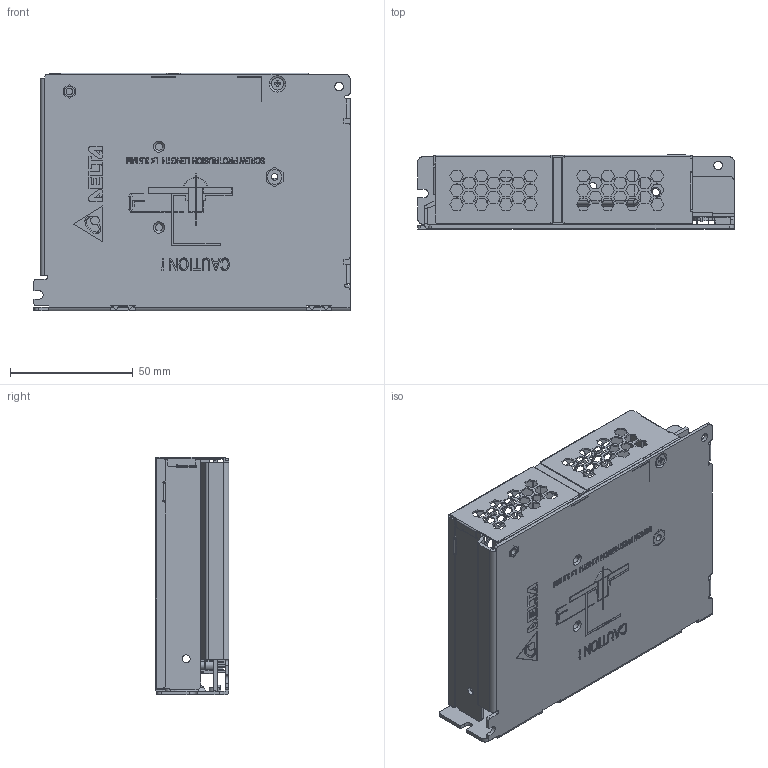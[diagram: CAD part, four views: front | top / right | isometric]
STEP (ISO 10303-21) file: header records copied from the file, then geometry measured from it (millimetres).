
FILE_DESCRIPTION((''),'2;1');
FILE_NAME('PMH-24V100WCMS_ASM','2018-04-10T',('warud'),(''),'PRO/ENGINEER BY PARAMETRIC TECHNOLOGY CORPORATION, 2010180','PRO/ENGINEER BY PARAMETRIC TECHNOLOGY CORPORATION, 2010180','');
FILE_SCHEMA(('CONFIG_CONTROL_DESIGN','SHAPE_APPEARANCE_LAYERS_GROUPS'));
Products named in the file (16): 330336890001_A_BODY_1; 330336890001_A_STUD6-32_1; 330336890001_A_STUDM3_1; 330336890001_ASM_1_ASM; 330336860000_1; PWB_MAINBOARD_1; 307049757W_A_BODY_1; 307049757W_A_SCREW_1; 307049757W_ASM_1_ASM; EE_VR131_1; EE_LED370_1; 312330170000_LED-HOLDER_1; ASSY_PWB-MAINBOARD_ASM_2_ASM; 3105469000_1; 3263670900_1; PMH-24V100WCMS_ASM
Assembly tree (21 placements, depth 4):
  PMH-24V100WCMS_ASM
    330336890001_ASM_1_ASM
      330336890001_A_BODY_1
      330336890001_A_STUD6-32_1
      330336890001_A_STUDM3_1
    330336860000_1
    ASSY_PWB-MAINBOARD_ASM_2_ASM
      PWB_MAINBOARD_1
      307049757W_ASM_1_ASM
        307049757W_A_BODY_1
        307049757W_A_SCREW_1  x7
      EE_VR131_1
      EE_LED370_1
      312330170000_LED-HOLDER_1
    3105469000_1
    3263670900_1
Bounding box: 129 x 30.1 x 97 mm (x, y, z)
Volume: 61077.1 mm3; surface area: 96608.8 mm2
Topology: 18 solids, 18 shells, 5137 faces, 14182 edges, 8966 vertices
Faces by surface type: plane 3918, cylinder 495, extrusion 325, bspline 292, cone 77, torus 30
Entity records: 182045 total; most frequent: CARTESIAN_POINT 31819, ORIENTED_EDGE 24964, DIRECTION 21083, EDGE_CURVE 12482, PRESENTATION_STYLE_ASSIGNMENT 11652, STYLED_ITEM 11587, CURVE_STYLE 11503, VECTOR 11049
